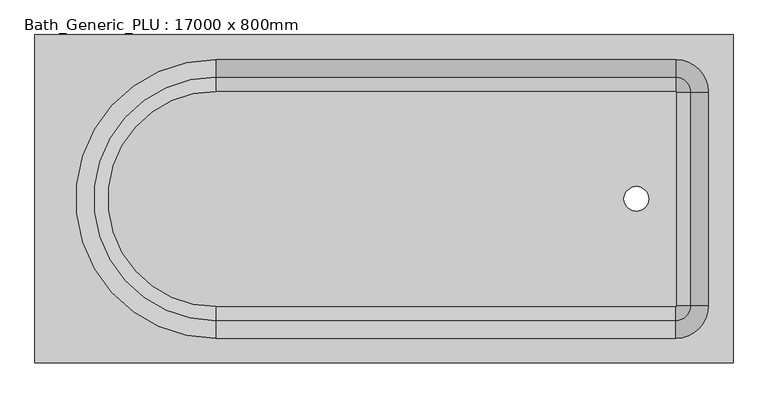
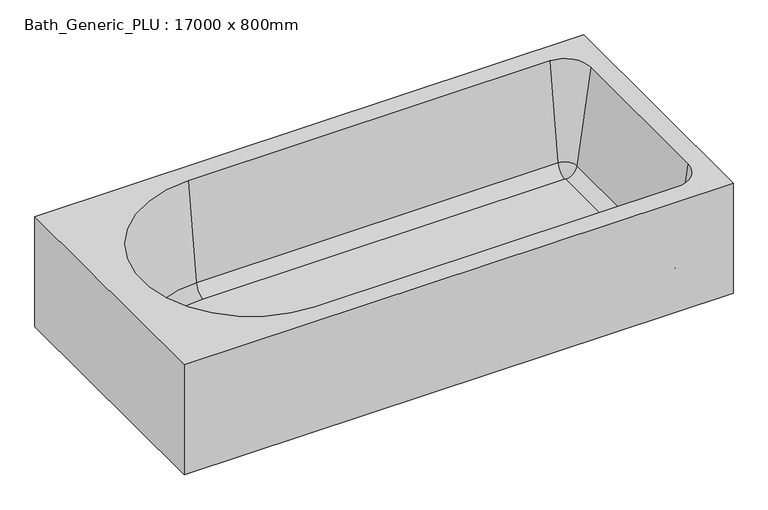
"""IFC4 building model written with IfcOpenShell, lengths in millimetres: flow terminal geometry, Bath_Generic_PLU : 17000 x 800mm."""

from ifc_helpers import new_model, si_unit, point, frame, origin, place, context, project, spatial, polyline, circle_curve, ellipse_curve, trimmed, source, transform, mapped, element, save
from ifc_brep_helpers import plane_surface, revolved_surface, advanced_brep


def bath_generic_plu_17000_x_800mm_a5aafa66(model_context):
    return source(origin(), model_context, "Body", "AdvancedBrep", [
        advanced_brep(
        [(-410.0, -262.1255814, 20.0), (710.0, -262.1255814, 20.0), (712.1255814, -260.0, 20.0), (712.1255814, 260.0, 20.0), (710.0, 262.1255814, 20.0), (-410.0, 262.1255814, 20.0), (644.3337909, 0.0, 20.0), (584.3337909, 0.0, 20.0), (850.0, -400.0, 0.0), (-850.0, -400.0, 0.0), (-850.0, 400.0, 0.0), (850.0, 400.0, 0.0), (584.3337909, 0.0, 0.0), (644.3337909, 0.0, 0.0), (850.0, -400.0, 360.0), (-850.0, -400.0, 360.0), (-850.0, 400.0, 360.0), (850.0, 400.0, 360.0), (-410.0, 340.0, 360.0), (710.0, 340.0, 360.0), (790.0, 260.0, 360.0), (790.0, -260.0, 360.0), (710.0, -340.0, 360.0), (-410.0, -340.0, 360.0), (-410.0, 296.8563387, 53.0168987), (-410.0, -296.8563387, 53.0168987), (710.0, 296.8563387, 53.0168987), (746.8563387, 260.0, 53.0168987), (746.8563387, -260.0, 53.0168987), (710.0, -296.8563387, 53.0168987)],
        [
            (0, 1),
            (1, 2, circle_curve(frame((710.0, -260.0, 20.0), z_axis=(0.0, 0.0, 1.0), x_axis=(1.0, 0.0, 0.0)), 2.1255814)),
            (2, 3),
            (3, 4, circle_curve(frame((710.0, 260.0, 20.0), z_axis=(0.0, 0.0, 1.0), x_axis=(0.0, 1.0, 0.0)), 2.1255814)),
            (4, 5),
            (5, 0, circle_curve(frame((-410.0, 0.0, 20.0), z_axis=(0.0, 0.0, 1.0), x_axis=(0.0, -1.0, 0.0)), 262.1255814)),
            (6, 7, circle_curve(frame((614.3337909, 0.0, 20.0), z_axis=(0.0, 0.0, -1.0), x_axis=(1.0, 0.0, 0.0)), 30.0)),
            (7, 6, circle_curve(frame((614.3337909, 0.0, 20.0), z_axis=(0.0, 0.0, -1.0), x_axis=(1.0, 0.0, 0.0)), 30.0)),
            (8, 9),
            (9, 10),
            (10, 11),
            (11, 8),
            (12, 13, circle_curve(frame((614.3337909, 0.0, 0.0), z_axis=(0.0, 0.0, 1.0), x_axis=(1.0, 0.0, 0.0)), 30.0)),
            (13, 12, circle_curve(frame((614.3337909, 0.0, 0.0), z_axis=(0.0, 0.0, 1.0), x_axis=(1.0, 0.0, 0.0)), 30.0)),
            (8, 14),
            (14, 15),
            (15, 9),
            (15, 16),
            (16, 10),
            (16, 17),
            (17, 11),
            (17, 14),
            (18, 19),
            (19, 20, circle_curve(frame((710.0, 260.0, 360.0), z_axis=(0.0, 0.0, -1.0), x_axis=(0.0, 1.0, 0.0)), 80.0)),
            (20, 21),
            (21, 22, circle_curve(frame((710.0, -260.0, 360.0), z_axis=(0.0, 0.0, -1.0), x_axis=(1.0, 0.0, 0.0)), 80.0)),
            (22, 23),
            (23, 18, circle_curve(frame((-410.0, 0.0, 360.0), z_axis=(0.0, 0.0, -1.0), x_axis=(0.0, -1.0, 0.0)), 340.0)),
            (24, 18),
            (23, 25),
            (25, 24, circle_curve(frame((-410.0, 0.0, 53.0168987), z_axis=(0.0, 0.0, -1.0), x_axis=(0.0, -1.0, 0.0)), 296.8563387)),
            (25, 0, circle_curve(frame((-410.0, -258.6991388, 58.3795434), z_axis=(1.0, 0.0, 0.0), x_axis=(0.0, 1.0, 0.0)), 38.5321925)),
            (5, 24, circle_curve(frame((-410.0, 258.6991388, 58.3795434), z_axis=(1.0, 0.0, 0.0), x_axis=(0.0, -1.0, 0.0)), 38.5321925)),
            (24, 26),
            (26, 19),
            (4, 26, circle_curve(frame((710.0, 258.6991388, 58.3795434), z_axis=(1.0, 0.0, 0.0), x_axis=(0.0, -1.0, 0.0)), 38.5321925)),
            (26, 27, circle_curve(frame((710.0, 260.0, 53.0168987), z_axis=(0.0, 0.0, -1.0), x_axis=(0.0, 1.0, 0.0)), 36.8563387)),
            (27, 20),
            (3, 27, circle_curve(frame((708.6991388, 260.0, 58.3795434), z_axis=(0.0, -1.0, 0.0), x_axis=(-1.0, 0.0, 0.0)), 38.5321925)),
            (27, 28),
            (28, 21),
            (2, 28, circle_curve(frame((708.6991388, -260.0, 58.3795434), z_axis=(0.0, -1.0, 0.0), x_axis=(-1.0, 0.0, 0.0)), 38.5321925)),
            (28, 29, circle_curve(frame((710.0, -260.0, 53.0168987), z_axis=(0.0, 0.0, -1.0), x_axis=(1.0, 0.0, 0.0)), 36.8563387)),
            (29, 22),
            (1, 29, circle_curve(frame((710.0, -258.6991388, 58.3795434), z_axis=(-1.0, 0.0, 0.0), x_axis=(0.0, 1.0, 0.0)), 38.5321925)),
            (29, 25),
            (13, 6),
            (7, 12),
        ],
        [
            plane_surface(frame((-850.0, -400.0, 20.0), z_axis=(0.0, 0.0, 1.0), x_axis=(-1.0, 0.0, 0.0))),
            plane_surface(frame((-850.0, -400.0, 0.0), z_axis=(0.0, 0.0, -1.0), x_axis=(1.0, 0.0, 0.0))),
            plane_surface(frame((850.0, -400.0, 20.0), z_axis=(0.0, -1.0, 0.0), x_axis=(0.0, 0.0, -1.0))),
            plane_surface(frame((-850.0, -400.0, 20.0), z_axis=(-1.0, 0.0, 0.0), x_axis=(0.0, 0.0, -1.0))),
            plane_surface(frame((-850.0, 400.0, 20.0), z_axis=(0.0, 1.0, 0.0), x_axis=(0.0, 0.0, -1.0))),
            plane_surface(frame((850.0, 400.0, 20.0), z_axis=(1.0, 0.0, 0.0), x_axis=(0.0, 0.0, -1.0))),
            plane_surface(frame((-850.0, -400.0, 360.0), z_axis=(0.0, 0.0, 1.0), x_axis=(-1.0, 0.0, 0.0))),
            revolved_surface(polyline([(-410.0, -340.0, 360.0), (-410.0, -296.8563387, 53.0168987)]), (-410.0, 0.0, 0.0), (0.0, 0.0, 1.0)),
            revolved_surface(trimmed(ellipse_curve(frame((-410.0, -258.6991388, 58.3795434), z_axis=(1.0, 0.0, 0.0), x_axis=(0.0, 1.0, 0.0)), 38.5321925, 38.5321925), [point((-410.0, -296.8563387, 53.0168987))], [point((-410.0, -262.1255814, 20.0))], True, "CARTESIAN"), (-410.0, 0.0, 0.0), (0.0, 0.0, 1.0)),
            plane_surface(frame((-410.0, 340.0, 360.0), z_axis=(0.0, -0.9902680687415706, 0.13917310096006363), x_axis=(1.0, 0.0, 0.0))),
            revolved_surface(polyline([(710.0, 220.1669463, 58.3795434), (-410.0, 220.1669463, 58.3795434)]), (-410.0, 258.6991388, 58.3795434), (1.0, 0.0, 0.0)),
            revolved_surface(polyline([(710.0, 340.0, 360.0), (710.0, 296.8563387, 53.0168987)]), (710.0, 260.0, 0.0), (0.0, 0.0, 1.0)),
            revolved_surface(trimmed(ellipse_curve(frame((710.0, 258.6991388, 58.3795434), z_axis=(-1.0, 0.0, 0.0), x_axis=(0.0, -1.0, 0.0)), 38.5321925, 38.5321925), [point((710.0, 296.8563387, 53.0168987))], [point((710.0, 262.1255814, 20.0))], True, "CARTESIAN"), (710.0, 260.0, 0.0), (0.0, 0.0, 1.0)),
            plane_surface(frame((790.0, 260.0, 360.0), z_axis=(-0.9902680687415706, 0.0, 0.13917310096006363), x_axis=(0.0, -1.0, 0.0))),
            revolved_surface(polyline([(670.1669463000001, -260.0, 58.3795434), (670.1669463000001, 260.0, 58.3795434)]), (708.6991388, 260.0, 58.3795434), (0.0, -1.0, 0.0)),
            revolved_surface(polyline([(790.0, -260.0, 360.0), (746.8563387, -260.0, 53.0168987)]), (710.0, -260.0, 0.0), (0.0, 0.0, 1.0)),
            revolved_surface(trimmed(ellipse_curve(frame((708.6991388, -260.0, 58.3795434), z_axis=(0.0, 1.0, 0.0), x_axis=(-1.0, 0.0, 0.0)), 38.5321925, 38.5321925), [point((746.8563387, -260.0, 53.0168987))], [point((712.1255814, -260.0, 20.0))], True, "CARTESIAN"), (710.0, -260.0, 0.0), (0.0, 0.0, 1.0)),
            plane_surface(frame((710.0, -340.0, 360.0), z_axis=(0.0, 0.9902680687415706, 0.13917310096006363), x_axis=(-1.0, 0.0, 0.0))),
            revolved_surface(polyline([(-410.0, -220.1669463, 58.3795434), (710.0, -220.1669463, 58.3795434)]), (710.0, -258.6991388, 58.3795434), (-1.0, 0.0, 0.0)),
            revolved_surface(polyline([(644.3337909, 0.0, 20.0), (644.3337909, 0.0, 0.0)]), (614.3337909, 0.0, 0.0), (0.0, 0.0, 1.0)),
        ],
        [
            (0, [[1, 2, 3, 4, 5, 6], [7, 8]]),
            (1, [[9, 10, 11, 12], [13, 14]]),
            (2, [[15, 16, 17, -9]]),
            (3, [[-17, 18, 19, -10]]),
            (4, [[-19, 20, 21, -11]]),
            (5, [[-21, 22, -15, -12]]),
            (6, [[-22, -20, -18, -16], [23, 24, 25, 26, 27, 28]]),
            (7, [[29, -28, 30, 31]]),
            (8, [[32, -6, 33, -31]]),
            (9, [[34, 35, -23, -29]]),
            (10, [[-5, 36, -34, -33]]),
            (11, [[37, 38, -24, -35]]),
            (12, [[-4, 39, -37, -36]]),
            (13, [[40, 41, -25, -38]]),
            (14, [[-3, 42, -40, -39]]),
            (15, [[43, 44, -26, -41]]),
            (16, [[-2, 45, -43, -42]]),
            (17, [[-27, -44, 46, -30]]),
            (18, [[-46, -45, -1, -32]]),
            (19, [[-14, 47, -8, 48]]),
            (19, [[-7, -47, -13, -48]]),
        ],
    ),
    ])


if __name__ == "__main__":
    model = new_model("IFC4")
    model_context = context("Model", 3, world=origin())
    ifc_project = project(units=[si_unit("LENGTHUNIT", "METRE", prefix="MILLI")], contexts=[model_context])
    site = spatial("IfcSite", under=ifc_project)
    building = spatial("IfcBuilding", under=site)
    placement = place(None, origin())
    bath_generic_plu_17000_x_800mm_shape = bath_generic_plu_17000_x_800mm_a5aafa66(model_context)
    element("IfcFlowTerminal", 1, ObjectType="Bath_Generic_PLU : 17000 x 800mm", at=placement, inside=building, context=model_context, shape_type="MappedRepresentation", body=[
        mapped(bath_generic_plu_17000_x_800mm_shape, transform((0.0, 0.0, 0.0), x_axis=(1.0, 0.0, 0.0), y_axis=(0.0, 1.0, 0.0), z_axis=(0.0, 0.0, 1.0))),
    ])
    save(model, "model.ifc")
